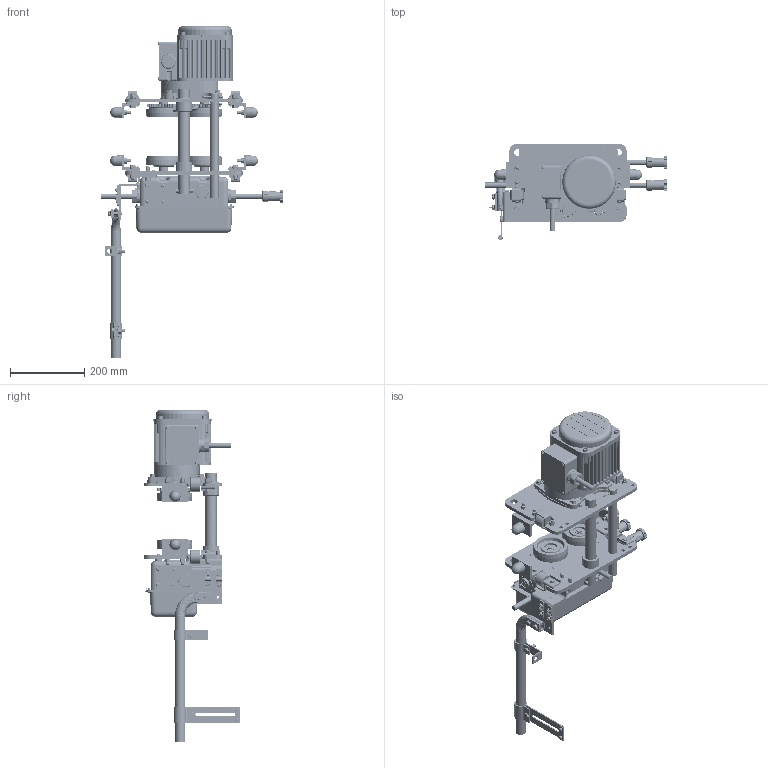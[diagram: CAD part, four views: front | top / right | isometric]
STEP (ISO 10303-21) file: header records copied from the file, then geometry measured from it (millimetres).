
FILE_DESCRIPTION (( 'STEP AP214' ), '1' );
FILE_NAME ('MR2003LD.STEP', '2026-08-06T17:27:25', ( '' ), ( '' ), 'SwSTEP 2.0', 'SolidWorks 2026', '' );
FILE_SCHEMA (( 'AUTOMOTIVE_DESIGN' ));
Length unit declared in the file: inch
Products named in the file (87): M6FE010S9113; MR1DS9401_1 - 8 TON & 10 L TON; 70131XX_7013101; MR1DS1481; MS527010; M6F554010; MS554010; ECP2108AC; MR2DI2811; M6SE010S9102; MR1DS9634; MS1101010; MR1DS1491; 6077801; MR1DS1211; ECP5924AB1; 9009446_9009446; MR1DS1301; 14-4 (MR2); ECP5924AH; MR1DS9218; 90912134; MR1DS9201; MR1DS9496; T6G156020; M6FE010S9114; MR1DS9203; hex cap screw_am_9093328; 16-6 (MR2); MS104010; MR1DS5201; single coil rectangular section spring washer_bsi_9012711; spring lock washer_2_jis_9012712; hexagon slotted nut low_1 small_jis_T3P154020; E6F151003; 16-6P (MR2); MR1DS1211_Reversed; socket head cap screw_am_9091295; MR1DS9131_MR1DS9131; 9012513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
Assembly tree (217 placements, depth 5):
  MR2003LD
    MR1DS5201
      MR1DS9201
      MR1DS9203  x2
      M6FE010S9113
    MR1DS5202
      MR1DS9202
      MR1DS9203  x2
      M6FE010S9114
    MSF115010_MSF115010
    MR1DS9634  x4
    hex cap screw_am_9093330  x8
    single coil rectangular section spring washer_bsi_9012711  x20
    hex nut style 1_am_9093424  x16
    MR1DS9631  x4
    MS006010  x4
    MR1DS1211_Reversed  x2
      MR1DS1211
      MR1DS9218
    MR1DS1211  x2
      MR1DS1211
      MR1DS9218
    MS1101010  x2
      M6SE010S9101
      6302Z BEARING
      basic internal retaining ring_am_9047242
    hex cap screw_am_9093329  x4
    MS1102010  x2
      M6SE010S9102
      6302Z BEARING
      basic internal retaining ring_am_9047242
    MR1DS9131_MR1DS9131
    9009446_9009446  x2
    MS161010
    T6G156020
    9009432_9009432
    hexagon slotted nut low_1 small_jis_T3P154020
    split pin (metric) as_9009414-5
    9047115_9047115  x4
    MS104010  x4
    6077801
      MR1DS93112
      MR1DS9324
      MR1DS9325
      MR1DS1301
      90912134  x4
      MS554010  x4
    9012513  x4
    hex cap screw_am_9093328  x4
    MR1DS9248
    70131XX_7013101
      MR1DS9411
      MR1DS9401_1 - 8 TON & 10 L TON
      MR1DS9421
      MS554010  x12
      MR2DI2811
        ECP5924AH
        MS527010
        MR2DI1811
        ES558003  x4
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Bounding box: 489.64 x 257.54 x 891.99 mm (x, y, z)
Volume: 5598251.5 mm3; surface area: 1876439.2 mm2
Topology: 249 solids, 265 shells, 9029 faces, 23706 edges, 15514 vertices
Faces by surface type: plane 4642, cylinder 2555, cone 932, bspline 440, torus 436, sphere 24
Entity records: 168354 total; most frequent: CARTESIAN_POINT 64330, ORIENTED_EDGE 21168, DIRECTION 19986, EDGE_CURVE 10586, AXIS2_PLACEMENT_3D 7301, VERTEX_POINT 7147, VECTOR 5384, LINE 5384
